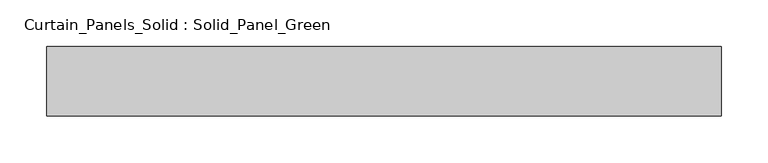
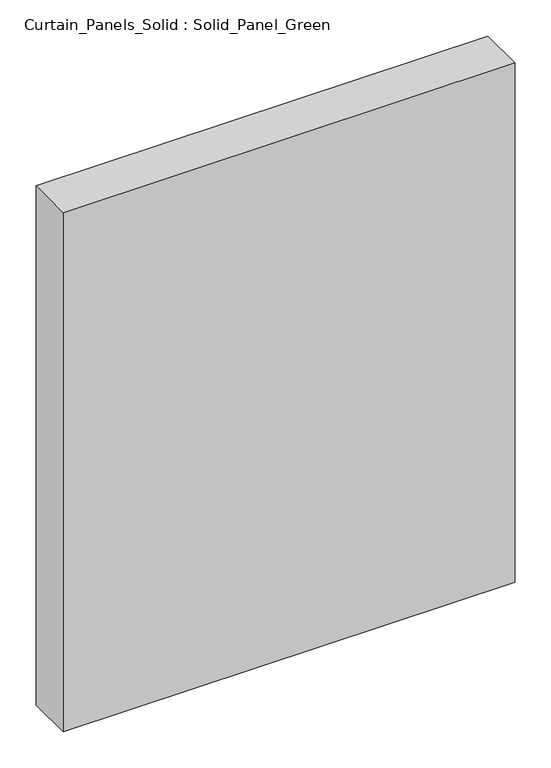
"""IFC4 building model written with IfcOpenShell, lengths in millimetres: plate geometry, Curtain_Panels_Solid : Solid_Panel_Green."""

from ifc_helpers import new_model, si_unit, origin, origin_with_axes, place, context, project, spatial, polyline, outline, extrude, source, transform, mapped, element, save


def curtain_panels_solid_solid_panel_green_d5b4ba83(model_context):
    return source(origin(), model_context, "Body", "SweptSolid", [
        extrude(outline(polyline([(362.5, -25.0), (-362.5, -25.0), (-362.5, 50.0), (362.5, 50.0), (362.5, -25.0)])), origin_with_axes(), (0.0, 0.0, 1.0), 880.0),
    ])


if __name__ == "__main__":
    model = new_model("IFC4")
    model_context = context("Model", 3, world=origin())
    ifc_project = project(units=[si_unit("LENGTHUNIT", "METRE", prefix="MILLI")], contexts=[model_context])
    site = spatial("IfcSite", under=ifc_project)
    building = spatial("IfcBuilding", under=site)
    placement = place(None, origin())
    curtain_panels_solid_solid_panel_green_shape = curtain_panels_solid_solid_panel_green_d5b4ba83(model_context)
    element("IfcPlate", 1, ObjectType="Curtain_Panels_Solid : Solid_Panel_Green", at=placement, inside=building, context=model_context, shape_type="MappedRepresentation", body=[
        mapped(curtain_panels_solid_solid_panel_green_shape, transform((0.0, 0.0, 0.0), x_axis=(1.0, 0.0, 0.0), y_axis=(0.0, 1.0, 0.0), z_axis=(0.0, 0.0, 1.0))),
    ])
    save(model, "model.ifc")
